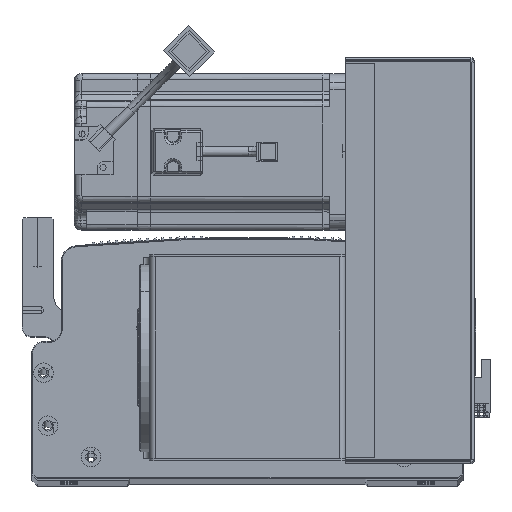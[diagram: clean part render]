
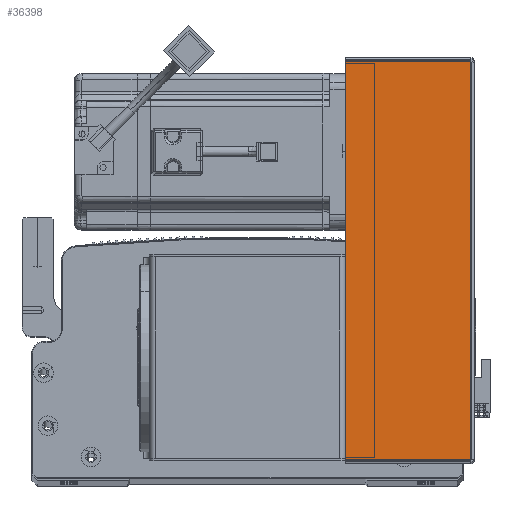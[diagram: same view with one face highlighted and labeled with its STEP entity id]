
A CAD part, top view. The second image highlights one B-rep face of the part: STEP entity #36398.
In plain terms, the highlighted planar face has unit normal (0, 0, 1) as drawn and (0, -1, 0) by its records, which use the part's own axes.
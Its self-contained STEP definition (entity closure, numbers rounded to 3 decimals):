
#655 = DIRECTION ( 'NONE',  ( -1., 0., 0. ) ) ;
#4035 = VECTOR ( 'NONE', #19815, 1000. ) ;
#8411 = CARTESIAN_POINT ( 'NONE',  ( 64.5, -1.5, -0.707 ) ) ;
#10690 = DIRECTION ( 'NONE',  ( 1., 0., 0. ) ) ;
#12563 = EDGE_LOOP ( 'NONE', ( #51390, #43589, #70951, #30680 ) ) ;
#15426 = CARTESIAN_POINT ( 'NONE',  ( 0., -1.5, 0. ) ) ;
#19815 = DIRECTION ( 'NONE',  ( 1., 0., 0. ) ) ;
#20965 = EDGE_CURVE ( 'NONE', #53896, #30117, #70779, .T. ) ;
#21495 = DIRECTION ( 'NONE',  ( 0., 1., 0. ) ) ;
#22398 = VERTEX_POINT ( 'NONE', #86055 ) ;
#22565 = EDGE_CURVE ( 'NONE', #77491, #30117, #25010, .T. ) ;
#25010 = LINE ( 'NONE', #87251, #70516 ) ;
#28899 = LINE ( 'NONE', #74577, #4035 ) ;
#30117 = VERTEX_POINT ( 'NONE', #8411 ) ;
#30680 = ORIENTED_EDGE ( 'NONE', *, *, #22565, .F. ) ;
#34869 = CARTESIAN_POINT ( 'NONE',  ( 0.737, -1.5, 0. ) ) ;
#36073 = DIRECTION ( 'NONE',  ( 0., 0., 1. ) ) ;
#36320 = PLANE ( 'NONE',  #85429 ) ;
#36398 = ADVANCED_FACE ( 'NONE', ( #46110 ), #36320, .F. ) ;
#38246 = VECTOR ( 'NONE', #36073, 1000. ) ;
#43589 = ORIENTED_EDGE ( 'NONE', *, *, #87793, .T. ) ;
#46110 = FACE_OUTER_BOUND ( 'NONE', #12563, .T. ) ;
#51390 = ORIENTED_EDGE ( 'NONE', *, *, #61056, .F. ) ;
#53896 = VERTEX_POINT ( 'NONE', #65065 ) ;
#59664 = DIRECTION ( 'NONE',  ( 0., 0., 1. ) ) ;
#61056 = EDGE_CURVE ( 'NONE', #22398, #77491, #80533, .T. ) ;
#65065 = CARTESIAN_POINT ( 'NONE',  ( 64.5, -1.5, -203.293 ) ) ;
#69119 = CARTESIAN_POINT ( 'NONE',  ( 64.5, -1.5, 0. ) ) ;
#70516 = VECTOR ( 'NONE', #10690, 1000. ) ;
#70779 = LINE ( 'NONE', #69119, #87018 ) ;
#70951 = ORIENTED_EDGE ( 'NONE', *, *, #20965, .T. ) ;
#74577 = CARTESIAN_POINT ( 'NONE',  ( 0., -1.5, -203.293 ) ) ;
#76936 = CARTESIAN_POINT ( 'NONE',  ( 0.737, -1.5, -0.707 ) ) ;
#77491 = VERTEX_POINT ( 'NONE', #76936 ) ;
#80533 = LINE ( 'NONE', #34869, #38246 ) ;
#85429 = AXIS2_PLACEMENT_3D ( 'NONE', #15426, #21495, #655 ) ;
#86055 = CARTESIAN_POINT ( 'NONE',  ( 0.737, -1.5, -203.293 ) ) ;
#87018 = VECTOR ( 'NONE', #59664, 1000. ) ;
#87251 = CARTESIAN_POINT ( 'NONE',  ( 0., -1.5, -0.707 ) ) ;
#87793 = EDGE_CURVE ( 'NONE', #22398, #53896, #28899, .T. ) ;
